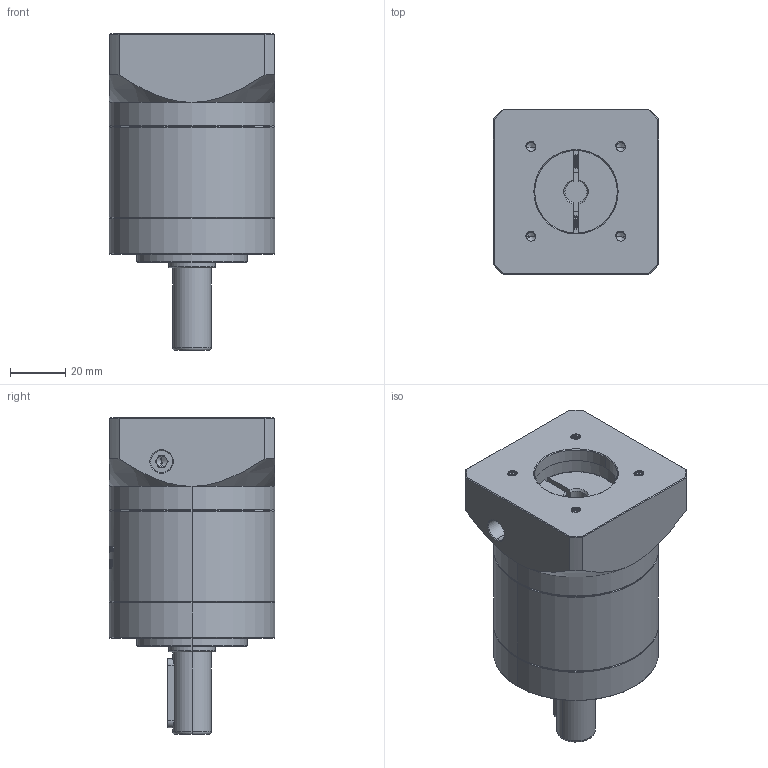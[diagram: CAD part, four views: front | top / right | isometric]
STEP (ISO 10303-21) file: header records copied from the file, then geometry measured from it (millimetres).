
FILE_DESCRIPTION (( 'STEP AP214' ), '1' );
FILE_NAME ('ZE60-D14-L1-8-30-46-M4.STEP', '2022-04-17T15:08:55', ( '' ), ( 'Microsoft' ), 'SwSTEP 2.0', 'SolidWorks 2016', '' );
FILE_SCHEMA (( 'AUTOMOTIVE_DESIGN' ));
Length unit declared in the file: millimetre
Products named in the file (1): ZE60-D14-L1-8-30-46-M4
Bounding box: 60 x 60 x 115 mm (x, y, z)
Volume: 220376.7 mm3; surface area: 43324.5 mm2
Topology: 6 solids, 6 shells, 1699 faces, 4624 edges, 2997 vertices
Faces by surface type: plane 732, cylinder 423, bspline 311, cone 213, torus 20
Entity records: 99714 total; most frequent: CARTESIAN_POINT 42519, ORIENTED_EDGE 9204, DIRECTION 6554, EDGE_CURVE 4602, VERTEX_POINT 2997, LINE 2292, VECTOR 2292, AXIS2_PLACEMENT_3D 2131
